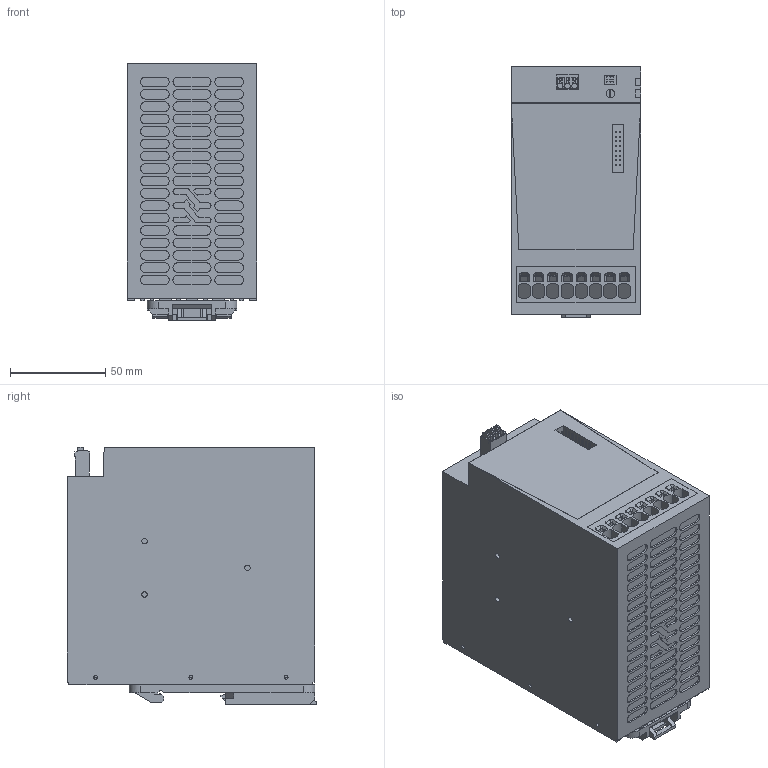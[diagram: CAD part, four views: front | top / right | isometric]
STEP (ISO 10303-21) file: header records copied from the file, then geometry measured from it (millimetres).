
FILE_DESCRIPTION(('CATIA V5R24 STEP','CAx-IF Rec.Pracs.--- Model Styling and Organization---1.2---2011-12-15'),'2;1');
FILE_NAME('\\SRVDE107\Germany\WMC\1_WMC_Input\A_Bruentrup\2467100000.stp','2018-03-09T05:57:46+00:00',('Weidmueller Interface'),('WI'),'CATIA Version 5-6 Release 2014 SP4','CATIA V5 STEP AP214','none');
FILE_SCHEMA(('AUTOMOTIVE_DESIGN { 1 0 10303 214 1 1 1 1 }'));
Length unit declared in the file: millimetre
Products named in the file (1): 2467100000
Bounding box: 68 x 131.2 x 135.4 mm (x, y, z)
Volume: 1078202.7 mm3; surface area: 112418 mm2
Topology: 33 solids, 33 shells, 1353 faces, 3496 edges, 2333 vertices
Faces by surface type: plane 1015, cylinder 295, bspline 22, extrusion 15, cone 6
Entity records: 43727 total; most frequent: CARTESIAN_POINT 11083, ORIENTED_EDGE 6992, DIRECTION 5202, EDGE_CURVE 3488, VECTOR 2673, LINE 2658, VERTEX_POINT 2323, AXIS2_PLACEMENT_3D 1566
